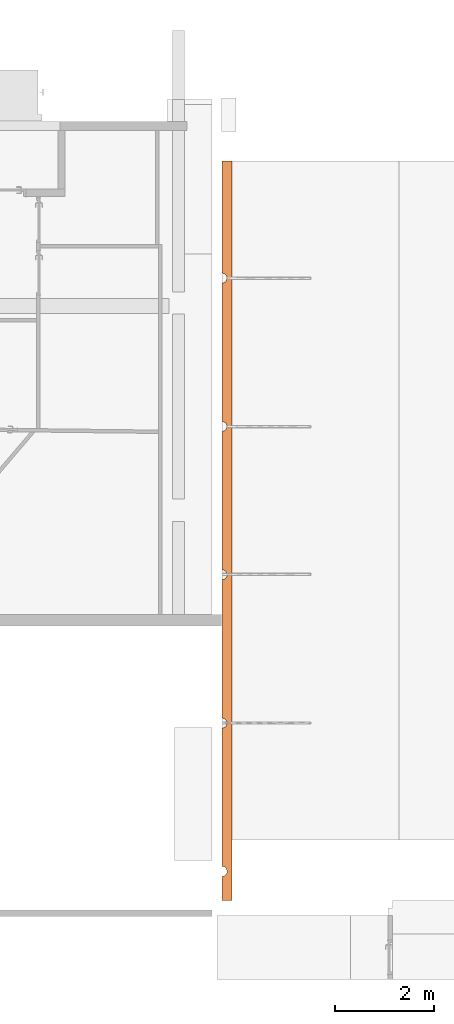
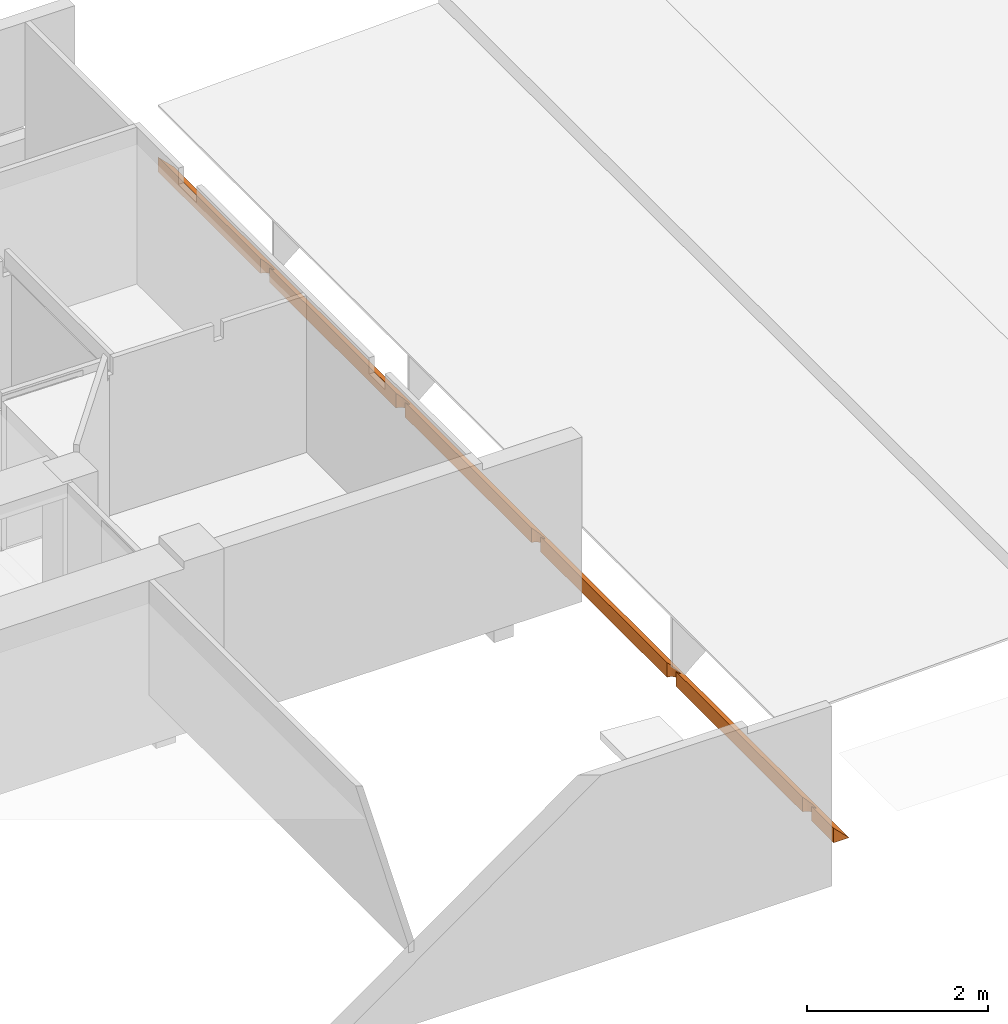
# One storey, part 30 of 32: 1 proxy.
"""IFC4 building model written with IfcOpenShell, lengths in metres."""

from ifc_helpers import new_model, entity, si_unit, converted_unit, derived_unit, direction, frame, origin, place, context, subcontext, project, spatial, polygons, source, transform, mapped, material, type_object, type_shapes, element, save


model = new_model("IFC4")

# Units and contexts
model_context = context("Model", 3, precision=1e-05, world=origin(), true_north=direction((6.12303176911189e-17, 1.0)))
body_context = subcontext(model_context, "Body", "Model", "MODEL_VIEW")
ifc_project = project(units=[si_unit("LENGTHUNIT", "METRE"), si_unit("AREAUNIT", "SQUARE_METRE"), si_unit("VOLUMEUNIT", "CUBIC_METRE"), converted_unit("PLANEANGLEUNIT", "DEGREE", entity("IfcRatioMeasure", 0.0174532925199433), si_unit("PLANEANGLEUNIT", "RADIAN"), dimensions=[0, 0, 0, 0, 0, 0, 0]), si_unit("MASSUNIT", "GRAM", prefix="KILO"), derived_unit("MASSDENSITYUNIT", [(si_unit("MASSUNIT", "GRAM", prefix="KILO"), 1), (si_unit("LENGTHUNIT", "METRE"), -3)]), derived_unit("MOMENTOFINERTIAUNIT", [(si_unit("LENGTHUNIT", "METRE"), 4)]), si_unit("TIMEUNIT", "SECOND"), si_unit("FREQUENCYUNIT", "HERTZ"), si_unit("THERMODYNAMICTEMPERATUREUNIT", "DEGREE_CELSIUS"), derived_unit("THERMALTRANSMITTANCEUNIT", [(si_unit("MASSUNIT", "GRAM", prefix="KILO"), 1), (si_unit("THERMODYNAMICTEMPERATUREUNIT", "KELVIN"), -1), (si_unit("TIMEUNIT", "SECOND"), -3)]), derived_unit("VOLUMETRICFLOWRATEUNIT", [(si_unit("LENGTHUNIT", "METRE"), 3), (si_unit("TIMEUNIT", "SECOND"), -1)]), si_unit("ELECTRICCURRENTUNIT", "AMPERE"), si_unit("ELECTRICVOLTAGEUNIT", "VOLT"), si_unit("POWERUNIT", "WATT"), si_unit("FORCEUNIT", "NEWTON", prefix="KILO"), si_unit("ILLUMINANCEUNIT", "LUX"), si_unit("LUMINOUSFLUXUNIT", "LUMEN"), si_unit("LUMINOUSINTENSITYUNIT", "CANDELA"), derived_unit("USERDEFINED", [(si_unit("MASSUNIT", "GRAM", prefix="KILO"), -1), (si_unit("LENGTHUNIT", "METRE"), -2), (si_unit("TIMEUNIT", "SECOND"), 3), (si_unit("LUMINOUSFLUXUNIT", "LUMEN"), 1)]), derived_unit("LINEARVELOCITYUNIT", [(si_unit("LENGTHUNIT", "METRE"), 1), (si_unit("TIMEUNIT", "SECOND"), -1)]), si_unit("PRESSUREUNIT", "PASCAL"), derived_unit("USERDEFINED", [(si_unit("LENGTHUNIT", "METRE"), -2), (si_unit("MASSUNIT", "GRAM", prefix="KILO"), 1), (si_unit("TIMEUNIT", "SECOND"), -2)]), derived_unit("LINEARFORCEUNIT", [(si_unit("MASSUNIT", "GRAM", prefix="KILO"), 1), (si_unit("LENGTHUNIT", "METRE"), 1), (si_unit("TIMEUNIT", "SECOND"), -2), (si_unit("LENGTHUNIT", "METRE"), -1)]), derived_unit("PLANARFORCEUNIT", [(si_unit("MASSUNIT", "GRAM", prefix="KILO"), 1), (si_unit("LENGTHUNIT", "METRE"), 1), (si_unit("TIMEUNIT", "SECOND"), -2), (si_unit("LENGTHUNIT", "METRE"), -2)])], contexts=[model_context])

# Site, building, storey
site_placement = place(None, origin())
site = spatial("IfcSite", under=ifc_project, at=site_placement, Name="Default", CompositionType="ELEMENT")
building_placement = place(site_placement, origin())
building = spatial("IfcBuilding", under=site, at=building_placement, Name="HOTEL CONSULAIRE BOULOGNE SUR MER", CompositionType="ELEMENT")
storey_placement = place(building_placement, frame((0.0, 0.0, -2.70343668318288)))
storey = spatial("IfcBuildingStorey", under=building, at=storey_placement, Name="SS1", CompositionType="ELEMENT", Elevation=-2.70343668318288)

# Proxy
ifc_material = material(Name="peinture bleu")
building_element_proxy_type = type_object("IfcBuildingElementProxyType", Name="corniche amphithéâtre:corniche amphithéâtre", PredefinedType="NOTDEFINED", material=ifc_material)
shared_shape = source(origin(), body_context, "Body", "Tessellation", [
    polygons([(0.0015952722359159, 0.0, 0.0), (0.200494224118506, 0.0, 1.08286712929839e-15), (0.0015952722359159, 0.0, 0.19889895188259), (0.0015952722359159, 0.488913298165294, 0.0), (0.0274771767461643, 0.492320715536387, 0.0), (0.051595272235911, 0.502310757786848, 2.70716782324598e-16), (0.0723059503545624, 0.51820262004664, 2.70716782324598e-16), (0.0881978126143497, 0.538913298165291, 2.70716782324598e-16), (0.0981878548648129, 0.56303139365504, 2.70716782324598e-16), (0.101595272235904, 0.588913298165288, 2.70716782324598e-16), (0.0981878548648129, 0.614795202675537, 2.70716782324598e-16), (0.0881978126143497, 0.638913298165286, 2.70716782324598e-16), (0.0723059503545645, 0.659623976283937, 2.70716782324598e-16), (0.051595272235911, 0.675515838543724, 2.70716782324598e-16), (0.0274771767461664, 0.68550588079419, 0.0), (0.00159527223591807, 0.688913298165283, 0.0), (0.0015952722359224, 3.48891329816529, 0.0), (0.0274771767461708, 3.49232071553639, 0.0), (0.0515952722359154, 3.50231075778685, 2.70716782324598e-16), (0.0723059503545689, 3.51820262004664, 2.70716782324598e-16), (0.088197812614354, 3.53891329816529, 2.70716782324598e-16), (0.0981878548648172, 3.56303139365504, 2.70716782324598e-16), (0.101595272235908, 3.58891329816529, 2.70716782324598e-16), (0.0981878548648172, 3.61479520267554, 2.70716782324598e-16), (0.088197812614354, 3.63891329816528, 2.70716782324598e-16), (0.0723059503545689, 3.65962397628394, 2.70716782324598e-16), (0.0515952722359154, 3.67551583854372, 2.70716782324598e-16), (0.0274771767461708, 3.68550588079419, 0.0), (0.0015952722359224, 3.68891329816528, 0.0), (0.00159527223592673, 6.48891329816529, 0.0), (0.0274771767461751, 6.49232071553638, 0.0), (0.0515952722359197, 6.50231075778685, 2.70716782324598e-16), (0.0723059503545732, 6.51820262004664, 2.70716782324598e-16), (0.0881978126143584, 6.53891329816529, 2.70716782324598e-16), (0.0981878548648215, 6.56303139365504, 2.70716782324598e-16), (0.101595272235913, 6.58891329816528, 2.70716782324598e-16), (0.0981878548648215, 6.61479520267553, 2.70716782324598e-16), (0.0881978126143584, 6.63891329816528, 2.70716782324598e-16), (0.0723059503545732, 6.65962397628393, 2.70716782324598e-16), (0.0515952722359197, 6.67551583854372, 2.70716782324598e-16), (0.0274771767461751, 6.68550588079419, 0.0), (0.00159527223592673, 6.68891329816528, 0.0), (0.00159527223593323, 9.48891329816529, 0.0), (0.0274771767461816, 9.49232071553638, 0.0), (0.0515952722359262, 9.50231075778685, 2.70716782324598e-16), (0.0723059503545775, 9.51820262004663, 2.70716782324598e-16), (0.0881978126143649, 9.53891329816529, 2.70716782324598e-16), (0.0981878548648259, 9.56303139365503, 2.70716782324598e-16), (0.101595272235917, 9.58891329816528, 2.70716782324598e-16), (0.0981878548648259, 9.61479520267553, 2.70716782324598e-16), (0.0881978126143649, 9.63891329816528, 2.70716782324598e-16), (0.0723059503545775, 9.65962397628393, 2.70716782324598e-16), (0.0515952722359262, 9.67551583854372, 2.70716782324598e-16), (0.0274771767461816, 9.68550588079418, 0.0), (0.00159527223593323, 9.68891329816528, 0.0), (0.00159527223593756, 12.4889132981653, 0.0), (0.0274771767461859, 12.4923207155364, 0.0), (0.0515952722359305, 12.5023107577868, 2.70716782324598e-16), (0.0723059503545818, 12.5182026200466, 2.70716782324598e-16), (0.0881978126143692, 12.5389132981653, 2.70716782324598e-16), (0.0981878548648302, 12.563031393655, 2.70716782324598e-16), (0.101595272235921, 12.5889132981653, 2.70716782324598e-16), (0.0981878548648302, 12.6147952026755, 2.70716782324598e-16), (0.0881978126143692, 12.6389132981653, 2.70716782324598e-16), (0.0723059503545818, 12.6596239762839, 2.70716782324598e-16), (0.0515952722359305, 12.6755158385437, 2.70716782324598e-16), (0.0274771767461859, 12.6855058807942, 0.0), (0.00159527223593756, 12.6889132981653, 0.0), (0.00159527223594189, 14.9532902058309, 0.0), (0.200494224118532, 14.9532902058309, 5.41433564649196e-16), (0.00159527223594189, 14.9532902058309, 0.19889895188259), (0.00159527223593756, 12.6889132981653, 0.19889895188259), (0.0238473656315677, 12.6864060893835, 0.17664685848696), (0.0449836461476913, 12.6790101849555, 0.155510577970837), (0.063944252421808, 12.6670964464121, 0.136549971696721), (0.0797784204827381, 12.6512622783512, 0.120715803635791), (0.0916921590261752, 12.632301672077, 0.108802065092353), (0.0990880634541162, 12.6111653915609, 0.101406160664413), (0.101595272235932, 12.5889132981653, 0.0988989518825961), (0.0990880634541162, 12.5666612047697, 0.101406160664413), (0.0916921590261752, 12.5455249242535, 0.108802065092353), (0.079778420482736, 12.5265643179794, 0.120715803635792), (0.063944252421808, 12.5107301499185, 0.13654997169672), (0.0449836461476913, 12.498816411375, 0.155510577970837), (0.0238473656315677, 12.4914205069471, 0.17664685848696), (0.00159527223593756, 12.4889132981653, 0.19889895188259), (0.00159527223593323, 9.68891329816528, 0.198898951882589), (0.0238473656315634, 9.68640608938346, 0.176646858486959), (0.0449836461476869, 9.67901018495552, 0.155510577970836), (0.0639442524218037, 9.66709644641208, 0.136549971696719), (0.0797784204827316, 9.65126227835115, 0.120715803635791), (0.0916921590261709, 9.63230167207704, 0.108802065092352), (0.0990880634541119, 9.61116539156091, 0.101406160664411), (0.101595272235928, 9.58891329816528, 0.0988989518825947), (0.0990880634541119, 9.56666120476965, 0.101406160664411), (0.0916921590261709, 9.54552492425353, 0.108802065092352), (0.0797784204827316, 9.52656431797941, 0.120715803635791), (0.0639442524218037, 9.51073014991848, 0.136549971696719), (0.0449836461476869, 9.49881641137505, 0.155510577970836), (0.0238473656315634, 9.4914205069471, 0.176646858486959), (0.00159527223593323, 9.48891329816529, 0.19889895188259), (0.00159527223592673, 6.68891329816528, 0.19889895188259), (0.0229515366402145, 6.68660623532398, 0.177542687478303), (0.043319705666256, 6.67979273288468, 0.157174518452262), (0.0617624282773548, 6.66878765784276, 0.138731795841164), (0.0774289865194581, 6.65409955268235, 0.123065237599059), (0.0895977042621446, 6.6364061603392, 0.110896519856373), (0.0977082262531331, 6.61652308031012, 0.102785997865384), (0.100613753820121, 6.60288971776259, 0.0998804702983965), (0.101595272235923, 6.58891329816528, 0.0988989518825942), (0.101444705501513, 6.58342780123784, 0.099049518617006), (0.100996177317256, 6.57798351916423, 0.0994980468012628), (0.0965836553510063, 6.55765298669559, 0.103910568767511), (0.0880421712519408, 6.53864468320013, 0.112452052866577), (0.0757465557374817, 6.52181942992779, 0.124747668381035), (0.06022967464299, 6.50790708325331, 0.140264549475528), (0.0421637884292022, 6.49751200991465, 0.158330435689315), (0.0223339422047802, 6.49108739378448, 0.178160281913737), (0.00159527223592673, 6.48891329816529, 0.19889895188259), (0.0015952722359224, 3.68891329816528, 0.19889895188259), (0.0209656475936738, 3.68701930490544, 0.179528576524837), (0.0395798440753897, 3.68141828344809, 0.160914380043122), (0.0567581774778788, 3.67232225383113, 0.143736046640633), (0.0718508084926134, 3.66007620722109, 0.128643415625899), (0.0842909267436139, 3.64513988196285, 0.1162032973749), (0.0936085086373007, 3.6280740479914, 0.106885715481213), (0.099448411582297, 3.60952308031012, 0.101045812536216), (0.101053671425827, 3.59930689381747, 0.0994405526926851), (0.101595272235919, 3.58891329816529, 0.0988989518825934), (0.101186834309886, 3.57988441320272, 0.0993073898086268), (0.0999747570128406, 3.57098351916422, 0.100519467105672), (0.0945040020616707, 3.55192724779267, 0.105990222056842), (0.0853785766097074, 3.53432064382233, 0.115115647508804), (0.0729604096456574, 3.51886319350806, 0.127533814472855), (0.0577370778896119, 3.50616006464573, 0.142757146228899), (0.0403040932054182, 3.49670902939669, 0.160190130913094), (0.0213475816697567, 3.4908834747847, 0.179146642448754), (0.0015952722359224, 3.48891329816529, 0.19889895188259), (0.00159527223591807, 0.688913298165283, 0.198898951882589), (0.0238473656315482, 0.686406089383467, 0.176646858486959), (0.0449836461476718, 0.679010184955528, 0.155510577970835), (0.0639442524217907, 0.667096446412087, 0.136549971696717), (0.0797784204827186, 0.651262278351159, 0.120715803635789), (0.0916921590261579, 0.632301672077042, 0.10880206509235), (0.0990880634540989, 0.611165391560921, 0.101406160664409), (0.101595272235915, 0.588913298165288, 0.0988989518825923), (0.0990880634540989, 0.566661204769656, 0.101406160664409), (0.0916921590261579, 0.545524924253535, 0.10880206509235), (0.0797784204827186, 0.526564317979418, 0.120715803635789), (0.0639442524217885, 0.510730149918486, 0.136549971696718), (0.0449836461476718, 0.498816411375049, 0.155510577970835), (0.0238473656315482, 0.49142050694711, 0.176646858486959), (0.0015952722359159, 0.488913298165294, 0.19889895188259)], [[[2, 3, 1]], [[1, 4, 5, 6, 7, 8, 9, 10, 11, 12, 13, 14, 15, 16, 17, 18, 19, 20, 21, 22, 23, 24, 25, 26, 27, 28, 29, 30, 31, 32, 33, 34, 35, 36, 37, 38, 39, 40, 41, 42, 43, 44, 45, 46, 47, 48, 49, 50, 51, 52, 53, 54, 55, 56, 57, 58, 59, 60, 61, 62, 63, 64, 65, 66, 67, 68, 69, 70, 2]], [[2, 70, 71, 72, 73, 74, 75, 76, 77, 78, 79, 80, 81, 82, 83, 84, 85, 86, 87, 88, 89, 90, 91, 92, 93, 94, 95, 96, 97, 98, 99, 100, 101, 102, 103, 104, 105, 106, 107, 108, 109, 110, 111, 112, 113, 114, 115, 116, 117, 118, 119, 120, 121, 122, 123, 124, 125, 126, 127, 128, 129, 130, 131, 132, 133, 134, 135, 136, 137, 138, 139, 140, 141, 142, 143, 144, 145, 146, 147, 148, 149, 150, 151, 152, 153, 3]], [[1, 3, 153, 4]], [[68, 72, 71, 69]], [[55, 87, 86, 56]], [[42, 102, 101, 43]], [[29, 120, 119, 30]], [[16, 139, 138, 17]], [[69, 71, 70]], [[63, 62, 78]], [[50, 49, 93]], [[11, 10, 145]], [[64, 63, 77]], [[51, 50, 92]], [[12, 11, 144]], [[62, 79, 78]], [[49, 94, 93]], [[10, 146, 145]], [[64, 77, 76]], [[51, 92, 91]], [[12, 144, 143]], [[77, 63, 78]], [[92, 50, 93]], [[144, 11, 145]], [[76, 65, 64]], [[91, 52, 51]], [[143, 13, 12]], [[66, 65, 75]], [[53, 52, 90]], [[14, 13, 142]], [[67, 66, 74]], [[54, 53, 89]], [[15, 14, 141]], [[68, 67, 73]], [[55, 54, 88]], [[16, 15, 140]], [[66, 75, 74]], [[53, 90, 89]], [[14, 142, 141]], [[68, 73, 72]], [[55, 88, 87]], [[16, 140, 139]], [[73, 67, 74]], [[88, 54, 89]], [[140, 15, 141]], [[76, 75, 65]], [[91, 90, 52]], [[143, 142, 13]], [[84, 58, 57]], [[99, 45, 44]], [[151, 6, 5]], [[85, 57, 56]], [[100, 44, 43]], [[152, 5, 4]], [[56, 86, 85]], [[43, 101, 100]], [[4, 153, 152]], [[58, 84, 83]], [[45, 99, 98]], [[6, 151, 150]], [[84, 57, 85]], [[99, 44, 100]], [[151, 5, 152]], [[83, 59, 58]], [[98, 46, 45]], [[150, 7, 6]], [[82, 60, 59]], [[97, 47, 46]], [[149, 8, 7]], [[80, 62, 61]], [[95, 49, 48]], [[147, 10, 9]], [[81, 61, 60]], [[96, 48, 47]], [[148, 9, 8]], [[60, 82, 81]], [[47, 97, 96]], [[8, 149, 148]], [[62, 80, 79]], [[49, 95, 94]], [[10, 147, 146]], [[80, 61, 81]], [[95, 48, 96]], [[147, 9, 148]], [[83, 82, 59]], [[98, 97, 46]], [[150, 149, 7]], [[36, 110, 109]], [[37, 36, 109]], [[38, 37, 108]], [[37, 109, 108]], [[38, 107, 106]], [[107, 38, 108]], [[106, 39, 38]], [[40, 39, 105]], [[41, 40, 104]], [[42, 41, 103]], [[40, 105, 104]], [[42, 103, 102]], [[103, 41, 104]], [[106, 105, 39]], [[118, 31, 30]], [[116, 33, 32]], [[117, 32, 31]], [[30, 119, 118]], [[32, 117, 116]], [[117, 31, 118]], [[116, 115, 33]], [[35, 34, 113]], [[112, 36, 35]], [[36, 111, 110]], [[34, 115, 114]], [[35, 113, 112]], [[36, 112, 111]], [[113, 34, 114]], [[33, 115, 34]], [[23, 129, 128]], [[24, 23, 128]], [[25, 24, 126]], [[24, 128, 127]], [[25, 126, 125]], [[126, 24, 127]], [[125, 26, 25]], [[27, 26, 123]], [[28, 27, 122]], [[29, 28, 121]], [[26, 124, 123]], [[28, 122, 121]], [[29, 121, 120]], [[122, 27, 123]], [[125, 124, 26]], [[137, 18, 17]], [[135, 20, 19]], [[136, 19, 18]], [[17, 138, 137]], [[19, 136, 135]], [[136, 18, 137]], [[135, 134, 20]], [[22, 21, 132]], [[130, 23, 22]], [[23, 130, 129]], [[133, 20, 134]], [[22, 132, 131]], [[22, 131, 130]], [[132, 21, 133]], [[21, 20, 133]]], closed=True),
])
type_shapes(building_element_proxy_type, [shared_shape])
proxy_placement = place(storey_placement, frame((12.3647443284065, -27.7238231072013, 0.316)))
element("IfcBuildingElementProxy", 1, at=proxy_placement, inside=storey, type_object=building_element_proxy_type, material=ifc_material, Name="corniche amphithéâtre:corniche amphithéâtre", ObjectType="corniche amphithéâtre:corniche amphithéâtre", PredefinedType="NOTDEFINED", context=body_context, shape_type="MappedRepresentation", body=[
    mapped(shared_shape, transform((0.0, 0.0, 0.0), scale=1.0)),
])

save(model, "model.ifc")
